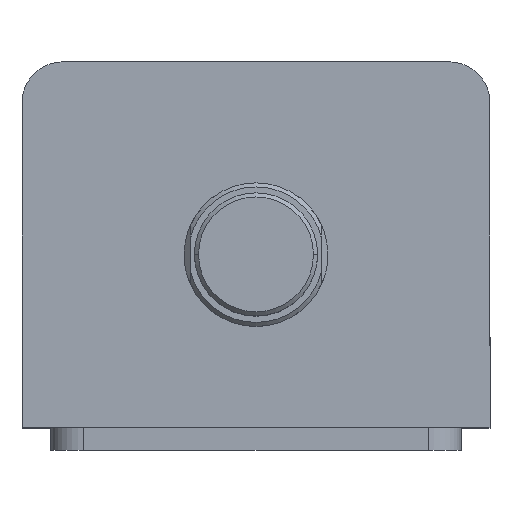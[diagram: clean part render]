
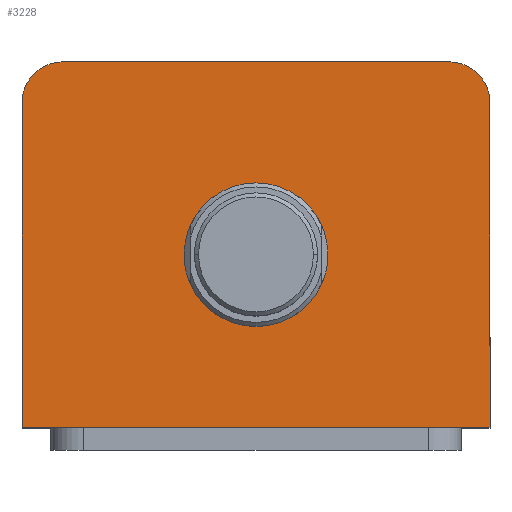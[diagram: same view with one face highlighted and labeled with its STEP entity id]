
A CAD part, top view. The second image highlights one B-rep face of the part: STEP entity #3228.
In plain terms, the highlighted planar face has unit normal (0, 0, 1).
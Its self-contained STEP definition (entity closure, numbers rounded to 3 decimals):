
#19 = CARTESIAN_POINT ( 'NONE',  ( 47., 34.5, 167. ) ) ;
#20 = DIRECTION ( 'NONE',  ( 0., 0., 1. ) ) ;
#21 = DIRECTION ( 'NONE',  ( 1., 0., 0. ) ) ;
#46 = CARTESIAN_POINT ( 'NONE',  ( -47., 34.5, 167. ) ) ;
#47 = DIRECTION ( 'NONE',  ( 0., 0., 1. ) ) ;
#48 = DIRECTION ( 'NONE',  ( 1., 0., 0. ) ) ;
#56 = CARTESIAN_POINT ( 'NONE',  ( -57., 44.5, 167. ) ) ;
#57 = DIRECTION ( 'NONE',  ( 0., -1., 0. ) ) ;
#767 = VERTEX_POINT ( 'NONE', #1540 ) ;
#770 = ORIENTED_EDGE ( 'NONE', *, *, #3328, .F. ) ;
#772 = ORIENTED_EDGE ( 'NONE', *, *, #3324, .F. ) ;
#774 = ORIENTED_EDGE ( 'NONE', *, *, #3499, .T. ) ;
#776 = ORIENTED_EDGE ( 'NONE', *, *, #3521, .T. ) ;
#778 = ORIENTED_EDGE ( 'NONE', *, *, #3525, .T. ) ;
#780 = ORIENTED_EDGE ( 'NONE', *, *, #3342, .T. ) ;
#782 = ORIENTED_EDGE ( 'NONE', *, *, #3484, .T. ) ;
#784 = ORIENTED_EDGE ( 'NONE', *, *, #3512, .T. ) ;
#1093 = CARTESIAN_POINT ( 'NONE',  ( -17.5, -2.5, 167. ) ) ;
#1094 = CARTESIAN_POINT ( 'NONE',  ( -57., -44.5, 167. ) ) ;
#1095 = CARTESIAN_POINT ( 'NONE',  ( 17.5, -2.5, 167. ) ) ;
#1097 = CARTESIAN_POINT ( 'NONE',  ( 57., -44.5, 167. ) ) ;
#1113 = CARTESIAN_POINT ( 'NONE',  ( 57., 34.5, 167. ) ) ;
#1125 = CARTESIAN_POINT ( 'NONE',  ( 47., 44.5, 167. ) ) ;
#1128 = CARTESIAN_POINT ( 'NONE',  ( -47., 44.5, 167. ) ) ;
#1501 = VERTEX_POINT ( 'NONE', #1093 ) ;
#1502 = VERTEX_POINT ( 'NONE', #1094 ) ;
#1503 = VERTEX_POINT ( 'NONE', #1095 ) ;
#1505 = VERTEX_POINT ( 'NONE', #1097 ) ;
#1521 = VERTEX_POINT ( 'NONE', #1113 ) ;
#1533 = VERTEX_POINT ( 'NONE', #1125 ) ;
#1536 = VERTEX_POINT ( 'NONE', #1128 ) ;
#1540 = CARTESIAN_POINT ( 'NONE',  ( -57., 34.5, 167. ) ) ;
#1915 = CARTESIAN_POINT ( 'NONE',  ( 57., 44.5, 167. ) ) ;
#1916 = DIRECTION ( 'NONE',  ( 0., 1., 0. ) ) ;
#1949 = CARTESIAN_POINT ( 'NONE',  ( -57., 44.5, 167. ) ) ;
#1950 = DIRECTION ( 'NONE',  ( -1., 0., 0. ) ) ;
#2355 = EDGE_LOOP ( 'NONE', ( #770, #772 ) ) ;
#2523 = LINE ( 'NONE', #1915, #2526 ) ;
#2526 = VECTOR ( 'NONE', #1916, 1000. ) ;
#2550 = LINE ( 'NONE', #1949, #2553 ) ;
#2553 = VECTOR ( 'NONE', #1950, 1000. ) ;
#2566 = CIRCLE ( 'NONE', #3751, 10. ) ;
#2579 = CIRCLE ( 'NONE', #3744, 10. ) ;
#2585 = LINE ( 'NONE', #56, #2588 ) ;
#2588 = VECTOR ( 'NONE', #57, 1000. ) ;
#2663 = CARTESIAN_POINT ( 'NONE',  ( 0., -2.5, 167. ) ) ;
#2664 = DIRECTION ( 'NONE',  ( 0., 0., 1. ) ) ;
#2665 = DIRECTION ( 'NONE',  ( 1., 0., 0. ) ) ;
#2666 = CARTESIAN_POINT ( 'NONE',  ( 0., -2.5, 167. ) ) ;
#2667 = DIRECTION ( 'NONE',  ( 0., 0., 1. ) ) ;
#2668 = DIRECTION ( 'NONE',  ( 1., 0., 0. ) ) ;
#2677 = CARTESIAN_POINT ( 'NONE',  ( -57., -44.5, 167. ) ) ;
#2687 = DIRECTION ( 'NONE',  ( 1., 0., 0. ) ) ;
#2771 = PLANE ( 'NONE',  #3160 ) ;
#2774 = CARTESIAN_POINT ( 'NONE',  ( 0., 0., 167. ) ) ;
#2780 = DIRECTION ( 'NONE',  ( 0., 0., 1. ) ) ;
#2781 = DIRECTION ( 'NONE',  ( 1., 0., 0. ) ) ;
#2954 = FACE_BOUND ( 'NONE', #2355, .T. ) ;
#2961 = FACE_OUTER_BOUND ( 'NONE', #3052, .T. ) ;
#3019 = CIRCLE ( 'NONE', #3702, 17.5 ) ;
#3020 = CIRCLE ( 'NONE', #3711, 17.5 ) ;
#3029 = LINE ( 'NONE', #2677, #3036 ) ;
#3036 = VECTOR ( 'NONE', #2687, 1000. ) ;
#3052 = EDGE_LOOP ( 'NONE', ( #774, #776, #778, #780, #782, #784 ) ) ;
#3160 = AXIS2_PLACEMENT_3D ( 'NONE', #2774, #2780, #2781 ) ;
#3228 = ADVANCED_FACE ( 'NONE', ( #2954, #2961 ), #2771, .T. ) ;
#3324 = EDGE_CURVE ( 'NONE', #1501, #1503, #3020, .T. ) ;
#3328 = EDGE_CURVE ( 'NONE', #1503, #1501, #3019, .T. ) ;
#3342 = EDGE_CURVE ( 'NONE', #1502, #1505, #3029, .T. ) ;
#3484 = EDGE_CURVE ( 'NONE', #1505, #1521, #2523, .T. ) ;
#3499 = EDGE_CURVE ( 'NONE', #1533, #1536, #2550, .T. ) ;
#3512 = EDGE_CURVE ( 'NONE', #1521, #1533, #2566, .T. ) ;
#3521 = EDGE_CURVE ( 'NONE', #1536, #767, #2579, .T. ) ;
#3525 = EDGE_CURVE ( 'NONE', #767, #1502, #2585, .T. ) ;
#3702 = AXIS2_PLACEMENT_3D ( 'NONE', #2666, #2667, #2668 ) ;
#3711 = AXIS2_PLACEMENT_3D ( 'NONE', #2663, #2664, #2665 ) ;
#3744 = AXIS2_PLACEMENT_3D ( 'NONE', #46, #47, #48 ) ;
#3751 = AXIS2_PLACEMENT_3D ( 'NONE', #19, #20, #21 ) ;
